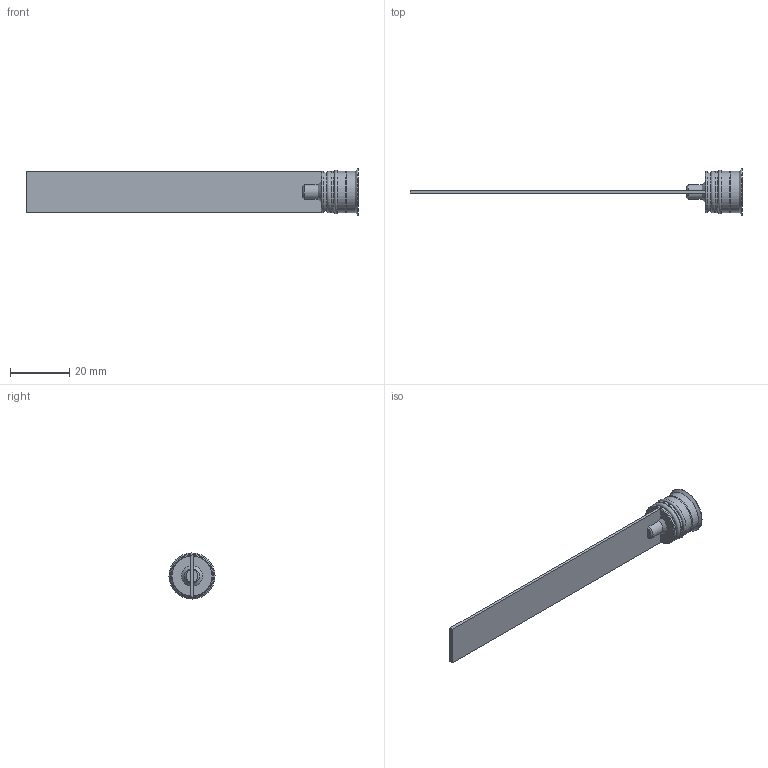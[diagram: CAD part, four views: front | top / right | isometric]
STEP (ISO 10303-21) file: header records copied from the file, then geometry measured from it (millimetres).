
FILE_DESCRIPTION( ( 'STEP AP214' ), '1' );
FILE_NAME( 'p:/temp/worker_238/temp/exporttempdir_5788_1070_yCBGu/format_0/RL-14Fx100.stp', '2021-02-05T19:44:28', ( 'License CC BY-ND 4.0' ), ( 'CADENAS' ), ' ', 'PARTsolutions', ' ' );
FILE_SCHEMA( ( 'AUTOMOTIVE_DESIGN { 1 0 10303 214 1 1 1 1 }' ) );
Length unit declared in the file: millimetre
Products named in the file (1): _RL-14Fx100
Bounding box: 112.5 x 15.6 x 15.6 mm (x, y, z)
Volume: 3296.2 mm3; surface area: 4285.9 mm2
Topology: 1 solids, 1 shells, 52 faces, 127 edges, 80 vertices
Faces by surface type: plane 29, cone 10, cylinder 10, torus 3
Full cylindrical faces by diameter (mm): 6 x1, 14 x4, 15.6 x1
Entity records: 1886 total; most frequent: CARTESIAN_POINT 291, DIRECTION 236, ORIENTED_EDGE 224, EDGE_CURVE 112, AXIS2_PLACEMENT_3D 85, VERTEX_POINT 80, EDGE_LOOP 68, LINE 66
